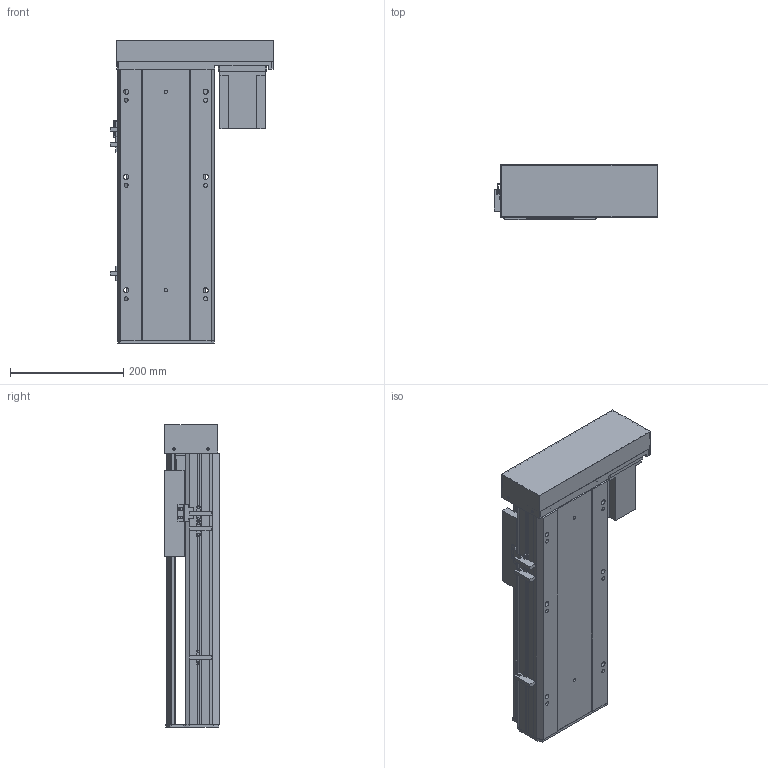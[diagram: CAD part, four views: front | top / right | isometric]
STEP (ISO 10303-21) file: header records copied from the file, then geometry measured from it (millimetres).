
FILE_DESCRIPTION (( 'STEP AP203' ), '1' );
FILE_NAME ('Y170-D10-S250-BR-P750W.STEP', '2020-01-21T12:04:22', ( '微软用户' ), ( '微软中国' ), 'SwSTEP 2.0', 'SolidWorks 2017', '' );
FILE_SCHEMA (( 'CONFIG_CONTROL_DESIGN' ));
Length unit declared in the file: millimetre
Products named in the file (12): Y170-BL-P750W楊擘啣; Y170-D10-S250-BR-P750W; 侂狟750W; EGH20賑輸_蕼偞; Y雄赽釱-耜蚾; Y170-陔遴奻裔-BR; Y-BL.BR-俋欶; Y--BL蟀諉啣-陔遴-; Y170耜裔--準---; YD-Y100-135-新外置传感挡片(通用）; 170--掛极-BR; Y100-135俋离換覜ん
Assembly tree (14 placements, depth 2):
  Y170-D10-S250-BR-P750W
    Y170耜裔--準---
    170--掛极-BR
    Y170-BL-P750W楊擘啣
    侂狟750W
    EGH20賑輸_蕼偞  x2
    Y雄赽釱-耜蚾
    Y170-陔遴奻裔-BR
    Y-BL.BR-俋欶
    Y--BL蟀諉啣-陔遴-
    YD-Y100-135-新外置传感挡片(通用）
    Y100-135俋离換覜ん  x3
Bounding box: 289 x 97 x 533.5 mm (x, y, z)
Volume: 3294433.1 mm3; surface area: 1060992.6 mm2
Topology: 14 solids, 14 shells, 885 faces, 2450 edges, 1616 vertices
Faces by surface type: plane 443, cylinder 426, cone 16
Entity records: 27450 total; most frequent: CARTESIAN_POINT 4694, DIRECTION 4588, ORIENTED_EDGE 4396, EDGE_CURVE 2198, AXIS2_PLACEMENT_3D 1618, VERTEX_POINT 1460, LINE 1352, VECTOR 1352
